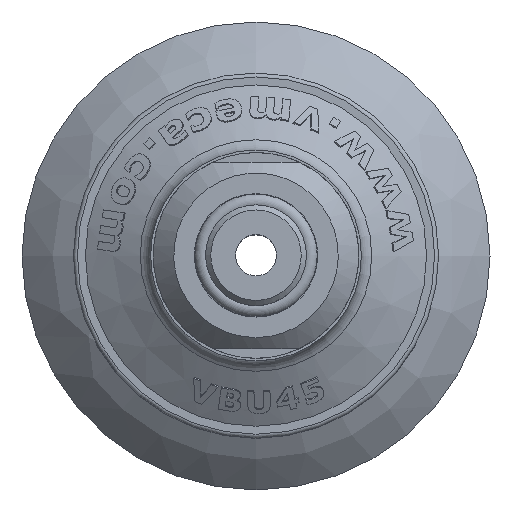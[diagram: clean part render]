
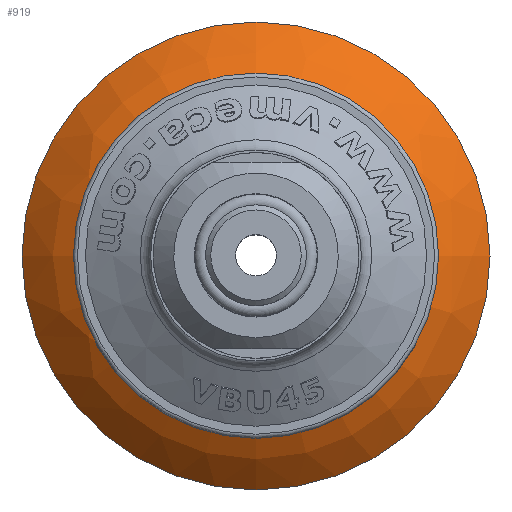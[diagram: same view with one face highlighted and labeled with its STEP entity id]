
A CAD part, top view. The second image highlights one B-rep face of the part: STEP entity #919.
In plain terms, the highlighted free-form (B-spline) face has degree [3, 3] with [4, 7] control points.
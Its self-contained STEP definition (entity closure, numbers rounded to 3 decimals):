
#919 = ADVANCED_FACE( '', ( #1965, #1966 ), #1967, .T. );
#1965 = FACE_OUTER_BOUND( '', #9212, .T. );
#1966 = FACE_OUTER_BOUND( '', #9213, .T. );
#1967 = ( BOUNDED_SURFACE(  )B_SPLINE_SURFACE( 3, 3, ( ( #9216, #9217, #9218, #9219, #9220, #9221, #9222 ), ( #9223, #9224, #9225, #9226, #9227, #9228, #9229 ), ( #9230, #9231, #9232, #9233, #9234, #9235, #9236 ), ( #9237, #9238, #9239, #9240, #9241, #9242, #9243 ) ), .UNSPECIFIED., .F., .T., .F. )B_SPLINE_SURFACE_WITH_KNOTS( ( 4, 4 ), ( 4, 3, 4 ), ( 0., 6.283 ), ( 0.717, 1.004, 1.291 ), .UNSPECIFIED. )GEOMETRIC_REPRESENTATION_ITEM(  )RATIONAL_B_SPLINE_SURFACE( ( ( 1., 0.333, 0.333, 1., 0.333, 0.333, 1. ), ( 0.973, 0.324, 0.324, 0.973, 0.324, 0.324, 0.973 ), ( 0.973, 0.324, 0.324, 0.973, 0.324, 0.324, 0.973 ), ( 1., 0.333, 0.333, 1., 0.333, 0.333, 1. ) ) )REPRESENTATION_ITEM( '' )SURFACE(  ) );
#9212 = EDGE_LOOP( '', ( #13514 ) );
#9213 = EDGE_LOOP( '', ( #13515 ) );
#9216 = CARTESIAN_POINT( '', ( 12.452, 0., -9.198 ) );
#9217 = CARTESIAN_POINT( '', ( 12.452, 24.904, -9.198 ) );
#9218 = CARTESIAN_POINT( '', ( -12.452, 24.904, -9.198 ) );
#9219 = CARTESIAN_POINT( '', ( -12.452, 0., -9.198 ) );
#9220 = CARTESIAN_POINT( '', ( -12.452, -24.904, -9.198 ) );
#9221 = CARTESIAN_POINT( '', ( 12.452, -24.904, -9.198 ) );
#9222 = CARTESIAN_POINT( '', ( 12.452, 0., -9.198 ) );
#9223 = CARTESIAN_POINT( '', ( 16.472, 0., -10.353 ) );
#9224 = CARTESIAN_POINT( '', ( 16.472, 32.943, -10.353 ) );
#9225 = CARTESIAN_POINT( '', ( -16.472, 32.943, -10.353 ) );
#9226 = CARTESIAN_POINT( '', ( -16.472, 0., -10.353 ) );
#9227 = CARTESIAN_POINT( '', ( -16.472, -32.943, -10.353 ) );
#9228 = CARTESIAN_POINT( '', ( 16.472, -32.943, -10.353 ) );
#9229 = CARTESIAN_POINT( '', ( 16.472, 0., -10.353 ) );
#9230 = CARTESIAN_POINT( '', ( 20., 0., -12.598 ) );
#9231 = CARTESIAN_POINT( '', ( 20., 40.001, -12.598 ) );
#9232 = CARTESIAN_POINT( '', ( -20., 40.001, -12.598 ) );
#9233 = CARTESIAN_POINT( '', ( -20., 0., -12.598 ) );
#9234 = CARTESIAN_POINT( '', ( -20., -40.001, -12.598 ) );
#9235 = CARTESIAN_POINT( '', ( 20., -40.001, -12.598 ) );
#9236 = CARTESIAN_POINT( '', ( 20., 0., -12.598 ) );
#9237 = CARTESIAN_POINT( '', ( 22.75, 0., -15.749 ) );
#9238 = CARTESIAN_POINT( '', ( 22.75, 45.5, -15.749 ) );
#9239 = CARTESIAN_POINT( '', ( -22.75, 45.5, -15.749 ) );
#9240 = CARTESIAN_POINT( '', ( -22.75, 0., -15.749 ) );
#9241 = CARTESIAN_POINT( '', ( -22.75, -45.5, -15.749 ) );
#9242 = CARTESIAN_POINT( '', ( 22.75, -45.5, -15.749 ) );
#9243 = CARTESIAN_POINT( '', ( 22.75, 0., -15.749 ) );
#13514 = ORIENTED_EDGE( '', *, *, #15004, .T. );
#13515 = ORIENTED_EDGE( '', *, *, #14142, .F. );
#14142 = EDGE_CURVE( '', #15464, #15464, #15465, .T. );
#15004 = EDGE_CURVE( '', #16725, #16725, #16726, .T. );
#15464 = VERTEX_POINT( '', #17986 );
#15465 = CIRCLE( '', #17987, 12.452 );
#16725 = VERTEX_POINT( '', #23513 );
#16726 = CIRCLE( '', #23514, 22.75 );
#17986 = CARTESIAN_POINT( '', ( 12.452, 0., -9.198 ) );
#17987 = AXIS2_PLACEMENT_3D( '', #23958, #23959, #23960 );
#23513 = CARTESIAN_POINT( '', ( 22.75, 0., -15.749 ) );
#23514 = AXIS2_PLACEMENT_3D( '', #24407, #24408, #24409 );
#23958 = CARTESIAN_POINT( '', ( 0., 0., -9.198 ) );
#23959 = DIRECTION( '', ( 0., 0., 1. ) );
#23960 = DIRECTION( '', ( 1., 0., 0. ) );
#24407 = CARTESIAN_POINT( '', ( 0., 0., -15.749 ) );
#24408 = DIRECTION( '', ( 0., 0., 1. ) );
#24409 = DIRECTION( '', ( 1., 0., 0. ) );
